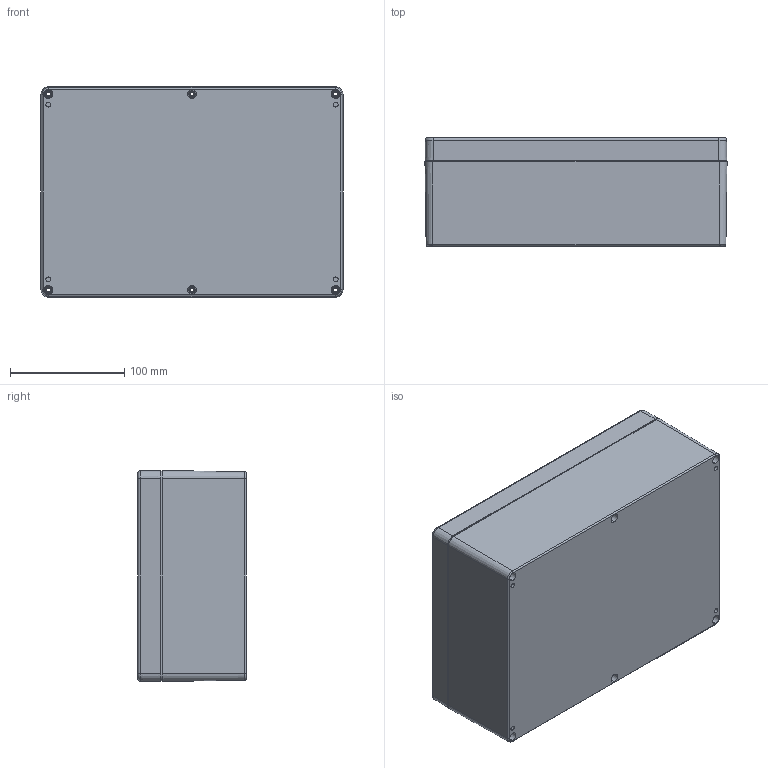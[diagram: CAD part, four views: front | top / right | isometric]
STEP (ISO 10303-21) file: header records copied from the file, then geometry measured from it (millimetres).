
FILE_DESCRIPTION (( 'STEP AP203' ), '1' );
FILE_NAME ('SE-264-0-0.STEP', '2020-01-25T06:49:55', ( '' ), ( '' ), 'SwSTEP 2.0', 'SolidWorks 2020', '' );
FILE_SCHEMA (( 'CONFIG_CONTROL_DESIGN' ));
Length unit declared in the file: millimetre
Products named in the file (4): SE-264-0-0; SE-264-P-1; SE-264-P-2; SE-264_pcb_sample
Assembly tree (3 placements, depth 2):
  SE-264-0-0
    SE-264-P-2
    SE-264-P-1
    SE-264_pcb_sample
Bounding box: 264.97 x 94.8 x 184.97 mm (x, y, z)
Volume: 709291.9 mm3; surface area: 481015.6 mm2
Topology: 13 solids, 13 shells, 1773 faces, 4649 edges, 3016 vertices
Faces by surface type: bspline 568, cylinder 522, plane 364, cone 311, torus 8
Entity records: 61345 total; most frequent: CARTESIAN_POINT 20230, ORIENTED_EDGE 9262, DIRECTION 7473, EDGE_CURVE 4631, VERTEX_POINT 3016, AXIS2_PLACEMENT_3D 2801, EDGE_LOOP 2007, VECTOR 1871
